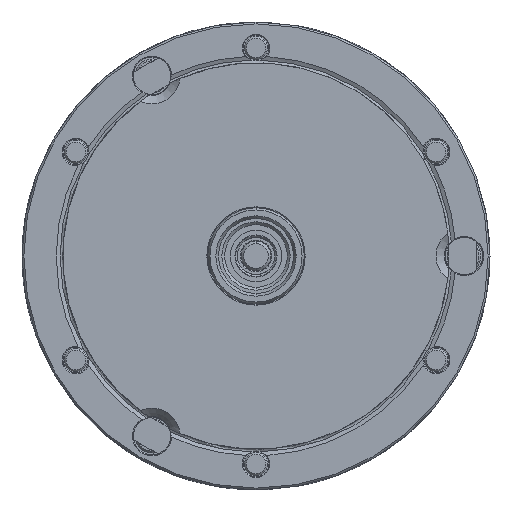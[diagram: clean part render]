
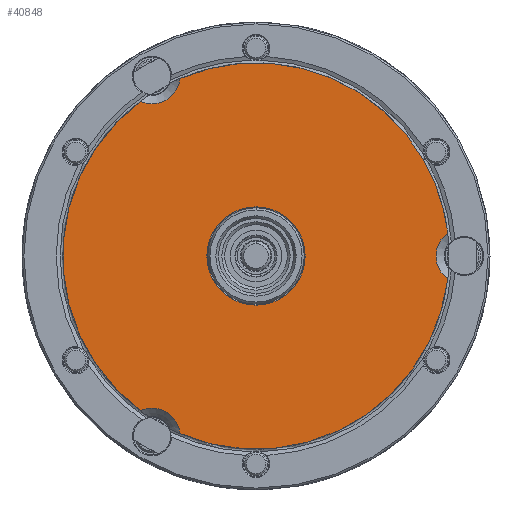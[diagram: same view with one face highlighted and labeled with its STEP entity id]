
A CAD part, left-side view. The second image highlights one B-rep face of the part: STEP entity #40848.
In plain terms, the highlighted planar face has unit normal (-1, 0, 0).
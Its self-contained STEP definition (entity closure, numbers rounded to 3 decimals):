
#819 = ORIENTED_EDGE ( 'NONE', *, *, #23944, .F. ) ;
#950 = CARTESIAN_POINT ( 'NONE',  ( -52.5, 0., 0. ) ) ;
#1046 = ORIENTED_EDGE ( 'NONE', *, *, #11723, .T. ) ;
#1670 = EDGE_CURVE ( 'NONE', #47391, #41066, #35877, .T. ) ;
#2614 = CARTESIAN_POINT ( 'NONE',  ( -52.5, -9.093, 5.25 ) ) ;
#3054 = CARTESIAN_POINT ( 'NONE',  ( -52.5, -40.983, 4.897 ) ) ;
#3916 = AXIS2_PLACEMENT_3D ( 'NONE', #950, #46917, #9469 ) ;
#4329 = VERTEX_POINT ( 'NONE', #27180 ) ;
#4409 = AXIS2_PLACEMENT_3D ( 'NONE', #48578, #5713, #6205 ) ;
#4512 = DIRECTION ( 'NONE',  ( 0., -0.866, 0.5 ) ) ;
#5713 = DIRECTION ( 'NONE',  ( 1., 0., 0. ) ) ;
#6205 = DIRECTION ( 'NONE',  ( 0., 0.866, -0.5 ) ) ;
#6516 = CARTESIAN_POINT ( 'NONE',  ( -52.5, 24.733, 33.044 ) ) ;
#6695 = EDGE_CURVE ( 'NONE', #25200, #10780, #9003, .T. ) ;
#7588 = DIRECTION ( 'NONE',  ( -1., 0., 0. ) ) ;
#7704 = EDGE_CURVE ( 'NONE', #25200, #44971, #21424, .T. ) ;
#7900 = CARTESIAN_POINT ( 'NONE',  ( -52.5, 22.225, 38.495 ) ) ;
#8073 = CIRCLE ( 'NONE', #34427, 10.5 ) ;
#8409 = CARTESIAN_POINT ( 'NONE',  ( -52.5, 0., 0. ) ) ;
#9003 = CIRCLE ( 'NONE', #40298, 41.275 ) ;
#9469 = DIRECTION ( 'NONE',  ( 0., -0.866, 0.5 ) ) ;
#9762 = AXIS2_PLACEMENT_3D ( 'NONE', #22998, #50098, #11129 ) ;
#10068 = ORIENTED_EDGE ( 'NONE', *, *, #7704, .F. ) ;
#10526 = CIRCLE ( 'NONE', #3916, 41.275 ) ;
#10780 = VERTEX_POINT ( 'NONE', #47742 ) ;
#11129 = DIRECTION ( 'NONE',  ( 0., 0.866, 0.5 ) ) ;
#11180 = AXIS2_PLACEMENT_3D ( 'NONE', #7900, #39371, #19003 ) ;
#11723 = EDGE_CURVE ( 'NONE', #10780, #41066, #10526, .T. ) ;
#12145 = CIRCLE ( 'NONE', #15487, 10.5 ) ;
#12896 = EDGE_CURVE ( 'NONE', #47391, #4329, #23661, .T. ) ;
#12993 = ORIENTED_EDGE ( 'NONE', *, *, #37775, .T. ) ;
#14582 = DIRECTION ( 'NONE',  ( 0., -0.866, 0.5 ) ) ;
#15487 = AXIS2_PLACEMENT_3D ( 'NONE', #24978, #41938, #14582 ) ;
#16391 = DIRECTION ( 'NONE',  ( -1., 0., 0. ) ) ;
#19003 = DIRECTION ( 'NONE',  ( 0., -0.866, 0.5 ) ) ;
#19035 = ORIENTED_EDGE ( 'NONE', *, *, #1670, .F. ) ;
#19520 = AXIS2_PLACEMENT_3D ( 'NONE', #19685, #7588, #47296 ) ;
#19685 = CARTESIAN_POINT ( 'NONE',  ( -52.5, 0., 0. ) ) ;
#19892 = VERTEX_POINT ( 'NONE', #2614 ) ;
#20632 = ORIENTED_EDGE ( 'NONE', *, *, #38012, .F. ) ;
#21424 = CIRCLE ( 'NONE', #46160, 6. ) ;
#21629 = CARTESIAN_POINT ( 'NONE',  ( -52.5, -40.983, -4.897 ) ) ;
#22692 = DIRECTION ( 'NONE',  ( 0., -0.866, 0.5 ) ) ;
#22997 = EDGE_LOOP ( 'NONE', ( #46670, #36508, #12993, #10068, #35026, #1046, #19035 ) ) ;
#22998 = CARTESIAN_POINT ( 'NONE',  ( -52.5, 22.225, -38.495 ) ) ;
#23323 = CARTESIAN_POINT ( 'NONE',  ( -52.5, 16.251, 37.941 ) ) ;
#23661 = CIRCLE ( 'NONE', #19520, 41.275 ) ;
#23944 = EDGE_CURVE ( 'NONE', #31031, #19892, #12145, .T. ) ;
#24122 = CARTESIAN_POINT ( 'NONE',  ( -52.5, -44.45, 0. ) ) ;
#24795 = EDGE_CURVE ( 'NONE', #31623, #4329, #32813, .T. ) ;
#24978 = CARTESIAN_POINT ( 'NONE',  ( -52.5, 0., 0. ) ) ;
#25200 = VERTEX_POINT ( 'NONE', #3054 ) ;
#26707 = CARTESIAN_POINT ( 'NONE',  ( -52.5, 0., 0. ) ) ;
#27180 = CARTESIAN_POINT ( 'NONE',  ( -52.5, 24.733, -33.044 ) ) ;
#31031 = VERTEX_POINT ( 'NONE', #33979 ) ;
#31623 = VERTEX_POINT ( 'NONE', #37798 ) ;
#32813 = CIRCLE ( 'NONE', #9762, 6. ) ;
#33811 = FACE_BOUND ( 'NONE', #45185, .T. ) ;
#33979 = CARTESIAN_POINT ( 'NONE',  ( -52.5, 9.093, -5.25 ) ) ;
#34427 = AXIS2_PLACEMENT_3D ( 'NONE', #26707, #41391, #42437 ) ;
#35026 = ORIENTED_EDGE ( 'NONE', *, *, #6695, .T. ) ;
#35877 = CIRCLE ( 'NONE', #11180, 6. ) ;
#36508 = ORIENTED_EDGE ( 'NONE', *, *, #24795, .F. ) ;
#37775 = EDGE_CURVE ( 'NONE', #31623, #44971, #43521, .T. ) ;
#37798 = CARTESIAN_POINT ( 'NONE',  ( -52.5, 16.251, -37.941 ) ) ;
#38012 = EDGE_CURVE ( 'NONE', #19892, #31031, #8073, .T. ) ;
#38173 = DIRECTION ( 'NONE',  ( -1., 0., 0. ) ) ;
#39111 = DIRECTION ( 'NONE',  ( -1., 0., 0. ) ) ;
#39371 = DIRECTION ( 'NONE',  ( -1., 0., 0. ) ) ;
#40298 = AXIS2_PLACEMENT_3D ( 'NONE', #46946, #38173, #22692 ) ;
#40848 = ADVANCED_FACE ( 'NONE', ( #33811, #48817 ), #41570, .F. ) ;
#41066 = VERTEX_POINT ( 'NONE', #23323 ) ;
#41391 = DIRECTION ( 'NONE',  ( -1., 0., 0. ) ) ;
#41570 = PLANE ( 'NONE',  #4409 ) ;
#41832 = AXIS2_PLACEMENT_3D ( 'NONE', #8409, #39111, #4512 ) ;
#41938 = DIRECTION ( 'NONE',  ( -1., 0., 0. ) ) ;
#42437 = DIRECTION ( 'NONE',  ( 0., -0.866, 0.5 ) ) ;
#43521 = CIRCLE ( 'NONE', #41832, 41.275 ) ;
#44971 = VERTEX_POINT ( 'NONE', #21629 ) ;
#45185 = EDGE_LOOP ( 'NONE', ( #20632, #819 ) ) ;
#46160 = AXIS2_PLACEMENT_3D ( 'NONE', #24122, #16391, #50977 ) ;
#46670 = ORIENTED_EDGE ( 'NONE', *, *, #12896, .T. ) ;
#46917 = DIRECTION ( 'NONE',  ( -1., 0., 0. ) ) ;
#46946 = CARTESIAN_POINT ( 'NONE',  ( -52.5, 0., 0. ) ) ;
#47296 = DIRECTION ( 'NONE',  ( 0., -0.866, 0.5 ) ) ;
#47391 = VERTEX_POINT ( 'NONE', #6516 ) ;
#47742 = CARTESIAN_POINT ( 'NONE',  ( -52.5, -35.745, 20.637 ) ) ;
#48578 = CARTESIAN_POINT ( 'NONE',  ( -52.5, 20.637, 35.745 ) ) ;
#48817 = FACE_OUTER_BOUND ( 'NONE', #22997, .T. ) ;
#50098 = DIRECTION ( 'NONE',  ( -1., 0., 0. ) ) ;
#50977 = DIRECTION ( 'NONE',  ( 0., 0., -1. ) ) ;
